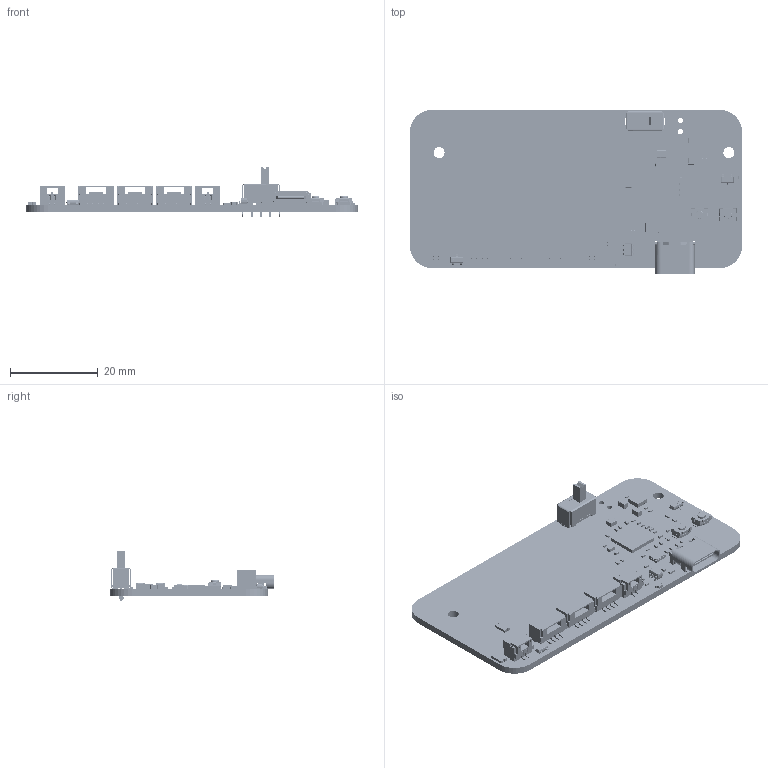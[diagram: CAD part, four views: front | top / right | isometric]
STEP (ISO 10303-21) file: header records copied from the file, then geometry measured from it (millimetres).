
FILE_DESCRIPTION(('Designed by EasyEDA Pro'),'2;1');
FILE_NAME('Open CASCADE Shape Model','2026-08-18T23:49:02',('Author'),( 'Open CASCADE'),'Open CASCADE STEP processor 7.8','Open CASCADE 7.8' ,'Unknown');
FILE_SCHEMA(('AUTOMOTIVE_DESIGN { 1 0 10303 214 1 1 1 1 }'));
Length unit declared in the file: millimetre
Products named in the file (87): EasyEDA PCB Model~7YY1; Board~7YY1; TopCopper~7YY1; BottomCopper~7YY1; TopSilkscreen~7YY1; BottomSilkscreen~7YY1; TopFpcStiffener~7YY1; BottomFpcStiffener~7YY1; C0603~C0603_L1.6-W0.8-H0.8~W5Ta; C7~C0603~C0603_L1.6-W0.8-H0.8~jw7y; R0402~R0402_L1.0-W0.5-H0.4~lTZM; R1~R0402~R0402_L1.0-W0.5-H0.4~dt4P; R2~R0402~R0402_L1.0-W0.5-H0.4~Q6su; R5~R0402~R0402_L1.0-W0.5-H0.4~OKiU; R6~R0402~R0402_L1.0-W0.5-H0.4~aNxF; R7~R0402~R0402_L1.0-W0.5-H0.4~j6ex; R8~R0402~R0402_L1.0-W0.5-H0.4~x8hS; R9~R0402~R0402_L1.0-W0.5-H0.4~UY2N; R10~R0402~R0402_L1.0-W0.5-H0.4~qzlH; R14~R0402~R0402_L1.0-W0.5-H0.4~O8Io; R15~R0402~R0402_L1.0-W0.5-H0.4~BP4c; R16~R0402~R0402_L1.0-W0.5-H0.4~cJxg; R27~R0402~R0402_L1.0-W0.5-H0.4~SceB; R38~R0402~R0402_L1.0-W0.5-H0.4~I26d; R34~R0402~R0402_L1.0-W0.5-H0.4~GzXe; R35~R0402~R0402_L1.0-W0.5-H0.4~KBzO; R36~R0402~R0402_L1.0-W0.5-H0.4~ru1u; R4~R0402~R0402_L1.0-W0.5-H0.4~0bPm; R22~R0402~R0402_L1.0-W0.5-H0.4~ptG8; R28~R0402~R0402_L1.0-W0.5-H0.4~NTHQ; R3~R0402~R0402_L1.0-W0.5-H0.4~L5TO; C0402~C0402_L1.0-W0.5-H0.5~LGC6; C1~C0402~C0402_L1.0-W0.5-H0.5~PaFT; C3~C0402~C0402_L1.0-W0.5-H0.5~D09V; C4~C0402~C0402_L1.0-W0.5-H0.5~MSxE; C9~C0402~C0402_L1.0-W0.5-H0.5~V2UT; C10~C0402~C0402_L1.0-W0.5-H0.5~cItA; C11~C0402~C0402_L1.0-W0.5-H0.5~eZlv; C12~C0402~C0402_L1.0-W0.5-H0.5~K7UJ; C13~C0402~C0402_L1.0-W0.5-H0.5~gAp7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
Assembly tree (129 placements, depth 3):
  EasyEDA PCB Model~7YY1
    Board~7YY1
    TopCopper~7YY1
    BottomCopper~7YY1
    TopSilkscreen~7YY1
    BottomSilkscreen~7YY1
    TopFpcStiffener~7YY1
    BottomFpcStiffener~7YY1
    C7~C0603~C0603_L1.6-W0.8-H0.8~jw7y
      C0603~C0603_L1.6-W0.8-H0.8~W5Ta
    R1~R0402~R0402_L1.0-W0.5-H0.4~dt4P
      R0402~R0402_L1.0-W0.5-H0.4~lTZM
    R2~R0402~R0402_L1.0-W0.5-H0.4~Q6su
      R0402~R0402_L1.0-W0.5-H0.4~lTZM
    R5~R0402~R0402_L1.0-W0.5-H0.4~OKiU
      R0402~R0402_L1.0-W0.5-H0.4~lTZM
    R6~R0402~R0402_L1.0-W0.5-H0.4~aNxF
      R0402~R0402_L1.0-W0.5-H0.4~lTZM
    R7~R0402~R0402_L1.0-W0.5-H0.4~j6ex
      R0402~R0402_L1.0-W0.5-H0.4~lTZM
    R8~R0402~R0402_L1.0-W0.5-H0.4~x8hS
      R0402~R0402_L1.0-W0.5-H0.4~lTZM
    R9~R0402~R0402_L1.0-W0.5-H0.4~UY2N
      R0402~R0402_L1.0-W0.5-H0.4~lTZM
    R10~R0402~R0402_L1.0-W0.5-H0.4~qzlH
      R0402~R0402_L1.0-W0.5-H0.4~lTZM
    R14~R0402~R0402_L1.0-W0.5-H0.4~O8Io
      R0402~R0402_L1.0-W0.5-H0.4~lTZM
    R15~R0402~R0402_L1.0-W0.5-H0.4~BP4c
      R0402~R0402_L1.0-W0.5-H0.4~lTZM
    R16~R0402~R0402_L1.0-W0.5-H0.4~cJxg
      R0402~R0402_L1.0-W0.5-H0.4~lTZM
    R27~R0402~R0402_L1.0-W0.5-H0.4~SceB
      R0402~R0402_L1.0-W0.5-H0.4~lTZM
    R38~R0402~R0402_L1.0-W0.5-H0.4~I26d
      R0402~R0402_L1.0-W0.5-H0.4~lTZM
    R34~R0402~R0402_L1.0-W0.5-H0.4~GzXe
      R0402~R0402_L1.0-W0.5-H0.4~lTZM
    R35~R0402~R0402_L1.0-W0.5-H0.4~KBzO
      R0402~R0402_L1.0-W0.5-H0.4~lTZM
    R36~R0402~R0402_L1.0-W0.5-H0.4~ru1u
      R0402~R0402_L1.0-W0.5-H0.4~lTZM
    R4~R0402~R0402_L1.0-W0.5-H0.4~0bPm
      R0402~R0402_L1.0-W0.5-H0.4~lTZM
    R22~R0402~R0402_L1.0-W0.5-H0.4~ptG8
      R0402~R0402_L1.0-W0.5-H0.4~lTZM
    R28~R0402~R0402_L1.0-W0.5-H0.4~NTHQ
      R0402~R0402_L1.0-W0.5-H0.4~lTZM
    R3~R0402~R0402_L1.0-W0.5-H0.4~L5TO
      R0402~R0402_L1.0-W0.5-H0.4~lTZM
    C1~C0402~C0402_L1.0-W0.5-H0.5~PaFT
      C0402~C0402_L1.0-W0.5-H0.5~LGC6
    C3~C0402~C0402_L1.0-W0.5-H0.5~D09V
      C0402~C0402_L1.0-W0.5-H0.5~LGC6
    C4~C0402~C0402_L1.0-W0.5-H0.5~MSxE
      C0402~C0402_L1.0-W0.5-H0.5~LGC6
    C9~C0402~C0402_L1.0-W0.5-H0.5~V2UT
      C0402~C0402_L1.0-W0.5-H0.5~LGC6
    C10~C0402~C0402_L1.0-W0.5-H0.5~cItA
      C0402~C0402_L1.0-W0.5-H0.5~LGC6
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Bounding box: 75.57 x 37.39 x 11.5 mm (x, y, z)
Volume: 5057 mm3; surface area: 8866.4 mm2
Topology: 322 solids, 322 shells, 22644 faces, 60350 edges, 39430 vertices
Faces by surface type: plane 13863, bspline 6690, cylinder 1703, sphere 256, torus 124, cone 8
Entity records: 357851 total; most frequent: CARTESIAN_POINT 87514, ORIENTED_EDGE 42272, DIRECTION 30140, EDGE_CURVE 21136, LINE 15156, VECTOR 15156, VERTEX_POINT 13835, EDGE_LOOP 8469
